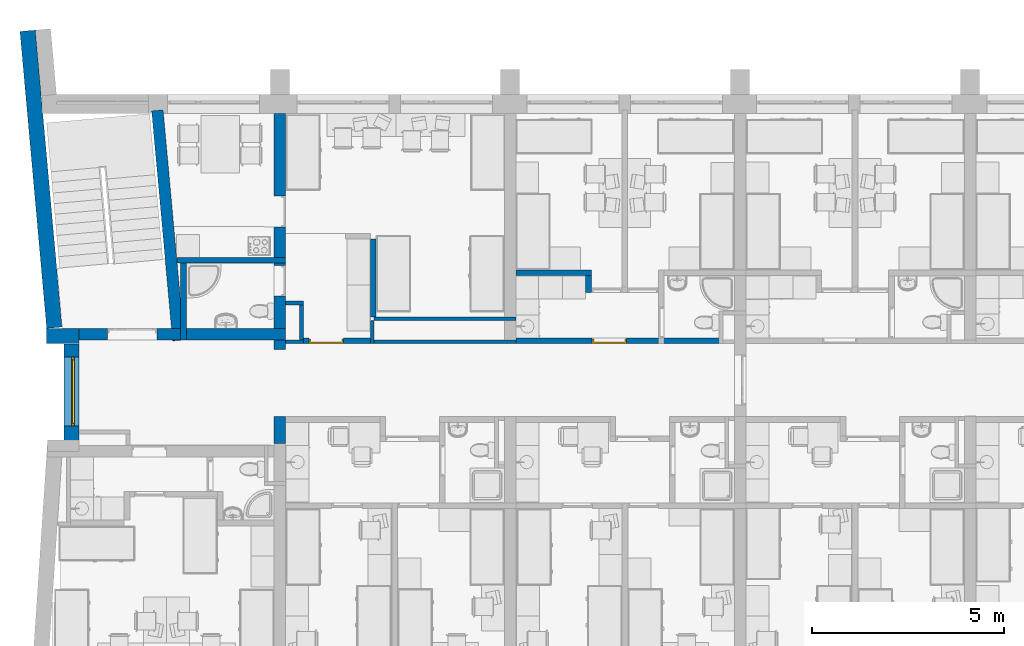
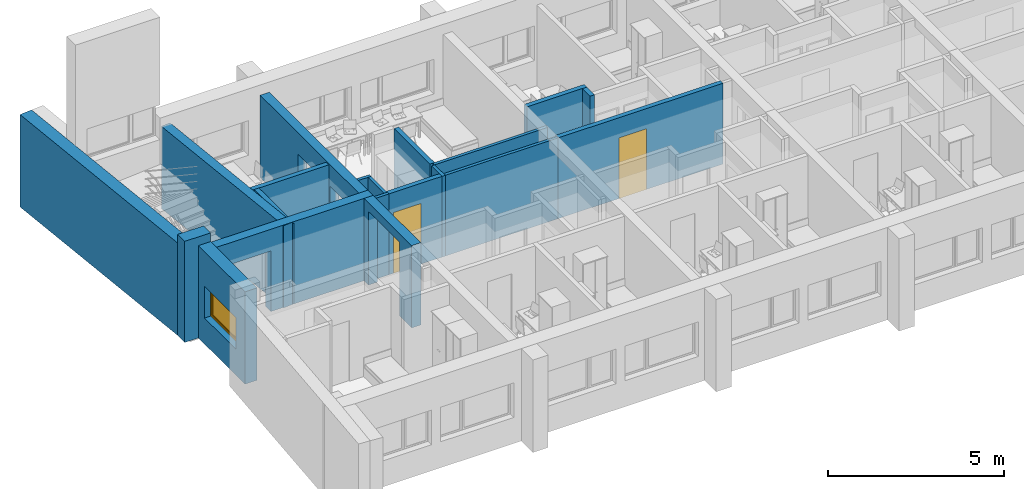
# One storey, part 4 of 165: 19 walls, 2 doors, 1 window, 7 openings.
"""IFC2X3 building model written with IfcOpenShell, lengths in millimetres."""

from ifc_helpers import new_model, entity, si_unit, converted_unit, money_unit, direction, frame, origin_with_axes, place, context, subcontext, project, spatial, polyline, outline, extrude, open_shell, faceted_brep, surface_model, source, transform, mapped, material, material_list, layer, layer_set, layer_usage, type_object, element, fill, save


model = new_model("IFC2X3")

# Units and contexts
model_context = context("Model", 3, precision=1e-05, world=origin_with_axes(), true_north=direction((0.0, 1.0)))
body_context = subcontext(model_context, "Body", "Model", "MODEL_VIEW")
ifc_project = project(units=[si_unit("LENGTHUNIT", "METRE", prefix="MILLI"), si_unit("AREAUNIT", "SQUARE_METRE"), si_unit("VOLUMEUNIT", "CUBIC_METRE"), converted_unit("PLANEANGLEUNIT", "DEGREE", entity("IfcPlaneAngleMeasure", 0.0174532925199), si_unit("PLANEANGLEUNIT", "RADIAN"), dimensions=[0, 0, 0, 0, 0, 0, 0]), si_unit("SOLIDANGLEUNIT", "STERADIAN"), money_unit("USD"), converted_unit("TIMEUNIT", "Year", entity("IfcTimeMeasure", 31556926.0), si_unit("TIMEUNIT", "SECOND"), dimensions=[0, 0, 0, 0, 0, 0, 0]), si_unit("MASSUNIT", "GRAM"), si_unit("THERMODYNAMICTEMPERATUREUNIT", "DEGREE_CELSIUS"), si_unit("LUMINOUSINTENSITYUNIT", "LUMEN")], contexts=[model_context])

# Site, building, storey
site_placement = place(None, origin_with_axes())
site = spatial("IfcSite", under=ifc_project, at=site_placement, Name="Site", CompositionType="ELEMENT")
building_placement = place(site_placement, origin_with_axes())
building = spatial("IfcBuilding", under=site, at=building_placement, Name="Building", CompositionType="ELEMENT")
storey_placement = place(building_placement, frame((0.0, 0.0, 6300.0), z_axis=(0.0, 0.0, 1.0), x_axis=(1.0, 0.0, 0.0)))
storey = spatial("IfcBuildingStorey", under=building, at=storey_placement, Name="4KORRUS", CompositionType="ELEMENT", Elevation=6300.0)

# Walls
ifc_material_1 = material(Name="Olemasolevad seinad tellis, uus viimistlus")
ifc_layer_1 = layer(ifc_material_1, 400.0, ventilated="UNKNOWN")
ifc_layer_set_1 = layer_set([ifc_layer_1], Name="Olemasolevad seinad tellis, uus viimistlus 400")
ifc_layer_usage_1 = layer_usage(ifc_layer_set_1, "AXIS2", "POSITIVE", -400.0)
wall_type_1 = type_object("IfcWallType", Name="Olemasolevad seinad tellis, uus viimistlus 400", PredefinedType="NOTDEFINED")
wall_1_placement = place(storey_placement, frame((-54223.8138142, -10739.6041088, 0.0), z_axis=(0.0, 0.0, 1.0), x_axis=(1.0, 0.0, 0.0)))
element("IfcWallStandardCase", 1, at=wall_1_placement, inside=storey, type_object=wall_type_1, material=ifc_layer_usage_1, Name="VS1", ObjectType="VS1", context=body_context, shape_type="SweptSolid", body=[
    extrude(outline(polyline([(0.0, -400.0), (845.875657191, -400.0), (845.875657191, 0.0), (0.0, 0.0), (0.0, -400.0)])), origin_with_axes(), (0.0, 0.0, 1.0), 3500.0),
])
ifc_layer_usage_2 = layer_usage(ifc_layer_set_1, "AXIS2", "POSITIVE", -400.0)
wall_2_placement = place(storey_placement, frame((-54223.8138142, -10739.6041088, 0.0), z_axis=(0.0, 0.0, 1.0), x_axis=(-0.0895981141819, 0.995978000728, 0.0)))
element("IfcWallStandardCase", 2, at=wall_2_placement, inside=storey, type_object=wall_type_1, material=ifc_layer_usage_2, Name="VS1", ObjectType="VS1", context=body_context, shape_type="SweptSolid", body=[
    extrude(outline(polyline([(0.0, -400.0), (7774.52554637, -400.0), (7774.52554637, 0.0), (0.0, 0.0), (0.0, -400.0)])), origin_with_axes(), (0.0, 0.0, 1.0), 3200.0),
])

# Wall, opening, window
ifc_layer_usage_3 = layer_usage(ifc_layer_set_1, "AXIS2", "POSITIVE", -400.0)
wall_3_placement = place(storey_placement, frame((-53377.938157, -11140.7868098, 0.0), z_axis=(0.0, 0.0, 1.0), x_axis=(0.0, -1.0, 0.0)))
wall_3 = element("IfcWallStandardCase", 3, at=wall_3_placement, inside=storey, type_object=wall_type_1, material=ifc_layer_usage_3, Name="VS1", ObjectType="VS1", context=body_context, shape_type="SweptSolid", body=[
    extrude(outline(polyline([(0.0, -400.0), (2646.55075753, -400.0), (2646.55075753, 0.0), (0.0, 0.0), (0.0, -400.0)])), origin_with_axes(), (0.0, 0.0, 1.0), 3200.0),
])
opening_1_placement = place(wall_3_placement, frame((1248.45308959, 0.0, 900.0), z_axis=(0.0, 0.0, 1.0), x_axis=(1.0, 0.0, 0.0)))
opening_1 = element("IfcOpeningElement", 4, at=opening_1_placement, cuts=wall_3, Name="A5", context=body_context, shape_type="SweptSolid", body=[
    extrude(outline(polyline([(-900.0, 1100.0), (-900.0, 0.0), (900.0, 0.0), (900.0, 1100.0), (-900.0, 1100.0)])), frame((0.0, -200.0, 0.0), z_axis=(0.0, -1.0, 0.0), x_axis=(1.0, 0.0, 0.0)), (0.0, 0.0, 1.0), 600.0),
    extrude(outline(polyline([(-900.0, 0.0), (-900.0, -1100.0), (900.0, -1100.0), (900.0, 0.0), (-900.0, 0.0)])), frame((0.0, -200.0, 0.0), z_axis=(0.0, 1.0, 0.0), x_axis=(1.0, 0.0, 0.0)), (0.0, 0.0, 1.0), 600.0),
])
ifc_material_2 = material(Name="Background")
ifc_material_list = material_list([ifc_material_2])
window_style = type_object("IfcWindowStyle", Name="Window 19", ConstructionType="NOTDEFINED", OperationType="SINGLE_PANEL", ParameterTakesPrecedence=False, Sizeable=False)
shared_shape_1 = source(origin_with_axes(), body_context, "Body", "SurfaceModel", [
    faceted_brep([(-875.0, -150.0, 1050.0), (-900.0, -150.0, 1050.0), (-900.0, -200.0, 1050.0), (-850.0, -200.0, 1050.0), (-850.0, -175.0, 1050.0), (-875.0, -175.0, 1050.0), (-875.0, -150.0, 50.0), (-900.0, -150.0, 50.0), (-900.0, -200.0, 50.0), (-850.0, -200.0, 50.0), (-850.0, -175.0, 50.0), (-875.0, -175.0, 50.0)], [[[0, 1, 2, 3, 4, 5]], [[6, 7, 1, 0]], [[1, 7, 8, 2]], [[2, 8, 9, 3]], [[4, 3, 9, 10]], [[10, 11, 5, 4]], [[5, 11, 6, 0]], [[11, 10, 9, 8, 7, 6]]]),
    faceted_brep([(850.0, -175.0, 1050.0), (850.0, -200.0, 1050.0), (900.0, -200.0, 1050.0), (900.0, -150.0, 1050.0), (875.0, -150.0, 1050.0), (875.0, -175.0, 1050.0), (850.0, -175.0, 50.0), (850.0, -200.0, 50.0), (900.0, -200.0, 50.0), (900.0, -150.0, 50.0), (875.0, -150.0, 50.0), (875.0, -175.0, 50.0)], [[[0, 1, 2, 3, 4, 5]], [[6, 7, 1, 0]], [[8, 2, 1, 7]], [[9, 3, 2, 8]], [[4, 3, 9, 10]], [[10, 11, 5, 4]], [[5, 11, 6, 0]], [[11, 10, 9, 8, 7, 6]]]),
    faceted_brep([(850.0, -175.0, 50.0), (850.0, -200.0, 50.0), (900.0, -200.0, 50.0), (900.0, -150.0, 50.0), (875.0, -150.0, 50.0), (875.0, -175.0, 50.0), (-850.0, -175.0, 50.0), (-850.0, -200.0, 50.0), (-900.0, -200.0, 50.0), (-900.0, -200.0, 0.0), (900.0, -200.0, 0.0), (900.0, -150.0, 0.0), (-875.0, -150.0, 25.0), (875.0, -150.0, 25.0), (-900.0, -150.0, 0.0), (-900.0, -150.0, 50.0), (-875.0, -150.0, 50.0), (875.0, -175.0, 25.0), (-875.0, -175.0, 25.0), (-875.0, -175.0, 50.0)], [[[0, 1, 2, 3, 4, 5]], [[6, 7, 1, 0]], [[8, 9, 10, 2, 1, 7]], [[11, 3, 2, 10]], [[12, 13, 4, 3, 11, 14, 15, 16]], [[13, 17, 5, 4]], [[5, 17, 18, 19, 6, 0]], [[19, 16, 15, 8, 7, 6]], [[15, 14, 9, 8]], [[14, 11, 10, 9]], [[12, 18, 17, 13]], [[19, 18, 12, 16]]]),
    faceted_brep([(-875.0, -150.0, 1050.0), (-900.0, -150.0, 1050.0), (-900.0, -150.0, 1100.0), (900.0, -150.0, 1100.0), (900.0, -150.0, 1050.0), (875.0, -150.0, 1050.0), (875.0, -150.0, 1075.0), (-875.0, -150.0, 1075.0), (-875.0, -175.0, 1050.0), (-850.0, -175.0, 1050.0), (-850.0, -200.0, 1050.0), (-900.0, -200.0, 1050.0), (-900.0, -200.0, 1100.0), (900.0, -200.0, 1100.0), (900.0, -200.0, 1050.0), (875.0, -175.0, 1050.0), (850.0, -200.0, 1050.0), (850.0, -175.0, 1050.0), (875.0, -175.0, 1075.0), (-875.0, -175.0, 1075.0)], [[[0, 1, 2, 3, 4, 5, 6, 7]], [[8, 9, 10, 11, 1, 0]], [[2, 1, 11, 12]], [[3, 2, 12, 13]], [[4, 3, 13, 14]], [[15, 5, 4, 14, 16, 17]], [[5, 15, 18, 6]], [[6, 18, 19, 7]], [[7, 19, 8, 0]], [[17, 9, 8, 19, 18, 15]], [[17, 16, 10, 9]], [[14, 13, 12, 11, 10, 16]]]),
    faceted_brep([(-825.0, -175.0, 1025.0), (-825.0, -125.0, 1025.0), (-875.0, -125.0, 1025.0), (-875.0, -175.0, 1025.0), (-825.0, -175.0, 75.0), (-825.0, -125.0, 75.0), (-875.0, -125.0, 75.0), (-875.0, -175.0, 75.0)], [[[0, 1, 2, 3]], [[4, 5, 1, 0]], [[1, 5, 6, 2]], [[3, 2, 6, 7]], [[0, 3, 7, 4]], [[7, 6, 5, 4]]]),
    faceted_brep([(825.0, -175.0, 75.0), (825.0, -125.0, 75.0), (875.0, -125.0, 75.0), (875.0, -175.0, 75.0), (825.0, -175.0, 1025.0), (825.0, -125.0, 1025.0), (875.0, -125.0, 1025.0), (875.0, -175.0, 1025.0)], [[[0, 1, 2, 3]], [[4, 5, 1, 0]], [[1, 5, 6, 2]], [[3, 2, 6, 7]], [[0, 3, 7, 4]], [[7, 6, 5, 4]]]),
    faceted_brep([(875.0, -175.0, 25.0), (875.0, -125.0, 25.0), (875.0, -125.0, 75.0), (875.0, -175.0, 75.0), (-875.0, -175.0, 25.0), (-875.0, -125.0, 25.0), (-875.0, -125.0, 75.0), (-825.0, -125.0, 75.0), (825.0, -125.0, 75.0), (825.0, -175.0, 75.0), (-825.0, -175.0, 75.0), (-875.0, -175.0, 75.0)], [[[0, 1, 2, 3]], [[4, 5, 1, 0]], [[1, 5, 6, 7, 8, 2]], [[3, 2, 8, 9]], [[0, 3, 9, 10, 11, 4]], [[11, 6, 5, 4]], [[10, 7, 6, 11]], [[9, 8, 7, 10]]]),
    faceted_brep([(-875.0, -175.0, 1075.0), (-875.0, -125.0, 1075.0), (-875.0, -125.0, 1025.0), (-875.0, -175.0, 1025.0), (875.0, -175.0, 1075.0), (875.0, -125.0, 1075.0), (875.0, -125.0, 1025.0), (825.0, -125.0, 1025.0), (-825.0, -125.0, 1025.0), (-825.0, -175.0, 1025.0), (825.0, -175.0, 1025.0), (875.0, -175.0, 1025.0)], [[[0, 1, 2, 3]], [[4, 5, 1, 0]], [[1, 5, 6, 7, 8, 2]], [[3, 2, 8, 9]], [[0, 3, 9, 10, 11, 4]], [[11, 6, 5, 4]], [[10, 7, 6, 11]], [[9, 8, 7, 10]]]),
    surface_model("IfcShellBasedSurfaceModel", [(-825.0, -160.0, 75.0), (825.0, -160.0, 75.0), (825.0, -160.0, 1025.0), (-825.0, -160.0, 1025.0)], [open_shell([[[0, 1, 2, 3]]])]),
    surface_model("IfcShellBasedSurfaceModel", [(-825.0, -140.0, 75.0), (-825.0, -140.0, 1025.0), (825.0, -140.0, 1025.0), (825.0, -140.0, 75.0)], [open_shell([[[0, 1, 2, 3]]])]),
])
window_placement = place(opening_1_placement, frame((-900.0, 0.0, 0.0), z_axis=(0.0, 0.0, 1.0), x_axis=(1.0, 0.0, 0.0)))
window = element("IfcWindow", 5, at=window_placement, inside=storey, type_object=window_style, material=ifc_material_list, Name="A5", ObjectType="A5", OverallHeight=1100.0, OverallWidth=1800.0, context=body_context, shape_type="MappedRepresentation", body=[
    mapped(shared_shape_1, transform((900.0, 0.0, 0.0))),
])
fill(opening_1, window)

# Wall, opening, door
ifc_material_3 = material(Name="UmbKipsplaat")
ifc_layer_2 = layer(ifc_material_3, 13.0, ventilated="UNKNOWN")
ifc_layer_3 = layer(ifc_material_3, 13.0, ventilated="UNKNOWN")
ifc_material_4 = material(Name="SOOJUSTUS MINERAALVILL")
ifc_layer_4 = layer(ifc_material_4, 98.0, ventilated="UNKNOWN")
ifc_layer_5 = layer(ifc_material_3, 13.0, ventilated="UNKNOWN")
ifc_layer_6 = layer(ifc_material_3, 13.0, ventilated="UNKNOWN")
ifc_layer_set_2 = layer_set([ifc_layer_2, ifc_layer_3, ifc_layer_4, ifc_layer_5, ifc_layer_6], Name="kipssein150")
ifc_layer_usage_4 = layer_usage(ifc_layer_set_2, "AXIS2", "POSITIVE", 0.0)
wall_type_2 = type_object("IfcWallType", Name="kipssein150 150", PredefinedType="NOTDEFINED")
wall_4_placement = place(storey_placement, frame((-47531.576757, -11136.6041088, 0.0), z_axis=(0.0, 0.0, 1.0), x_axis=(1.0, 0.0, 0.0)))
wall_4 = element("IfcWallStandardCase", 6, at=wall_4_placement, inside=storey, type_object=wall_type_2, material=ifc_layer_usage_4, Name="SS1", ObjectType="SS1", context=body_context, shape_type="SweptSolid", body=[
    extrude(outline(polyline([(0.0, 0.0), (1747.44398218, 0.0), (1747.44398218, 150.0), (0.0, 150.0), (0.0, 0.0)])), origin_with_axes(), (0.0, 0.0, 1.0), 2800.0),
])
opening_2_placement = place(wall_4_placement, frame((597.0, 0.0, 0.0), z_axis=(0.0, 0.0, 1.0), x_axis=(1.0, 0.0, 0.0)))
opening_2 = element("IfcOpeningElement", 7, at=opening_2_placement, cuts=wall_4, Name="SU2-6", context=body_context, shape_type="SweptSolid", body=[
    extrude(outline(polyline([(-450.0, -2100.0), (450.0, -2100.0), (450.0, 0.0), (-450.0, 0.0), (-450.0, -2100.0)])), frame((0.0, 150.0, 0.0), z_axis=(0.0, 1.0, 0.0), x_axis=(1.0, 0.0, 0.0)), (0.0, 0.0, -1.0), 450.0),
])
door_style = type_object("IfcDoorStyle", Name="Door 19", ConstructionType="NOTDEFINED", OperationType="SINGLE_SWING_LEFT", ParameterTakesPrecedence=False, Sizeable=False)
shared_shape_2 = source(origin_with_axes(), body_context, "Body", "Brep", [
    faceted_brep([(410.0, -40.0, 0.0), (410.0, -115.0, 0.0), (410.0, -115.0, 2060.0), (410.0, -40.0, 2060.0), (422.0, -40.0, 0.0), (422.0, 0.0, 0.0), (450.0, 0.0, 0.0), (450.0, -115.0, 0.0), (450.0, -115.0, 2060.0), (422.0, -40.0, 2060.0), (450.0, 0.0, 2060.0), (422.0, 0.0, 2060.0)], [[[0, 1, 2, 3]], [[4, 5, 6, 7, 1, 0]], [[2, 1, 7, 8]], [[9, 3, 2, 8, 10, 11]], [[9, 4, 0, 3]], [[11, 5, 4, 9]], [[11, 10, 6, 5]], [[7, 6, 10, 8]]]),
    faceted_brep([(-422.0, -40.0, 2060.0), (-422.0, 0.0, 2060.0), (-450.0, 0.0, 2060.0), (-450.0, -115.0, 2060.0), (-410.0, -115.0, 2060.0), (-410.0, -40.0, 2060.0), (-422.0, -40.0, 0.0), (-422.0, 0.0, 0.0), (-450.0, 0.0, 0.0), (-450.0, -115.0, 0.0), (-410.0, -115.0, 0.0), (-410.0, -40.0, 0.0)], [[[0, 1, 2, 3, 4, 5]], [[0, 6, 7, 1]], [[7, 8, 2, 1]], [[3, 2, 8, 9]], [[4, 3, 9, 10]], [[5, 4, 10, 11]], [[5, 11, 6, 0]], [[6, 11, 10, 9, 8, 7]]]),
    faceted_brep([(422.0, 0.0, 2072.0), (-422.0, 0.0, 2072.0), (-422.0, 0.0, 2060.0), (-450.0, 0.0, 2060.0), (-450.0, 0.0, 2100.0), (450.0, 0.0, 2100.0), (450.0, 0.0, 2060.0), (422.0, 0.0, 2060.0), (422.0, -40.0, 2072.0), (-422.0, -40.0, 2072.0), (-422.0, -40.0, 2060.0), (-410.0, -40.0, 2060.0), (-410.0, -115.0, 2060.0), (-450.0, -115.0, 2060.0), (-450.0, -115.0, 2100.0), (450.0, -115.0, 2100.0), (450.0, -115.0, 2060.0), (422.0, -40.0, 2060.0), (410.0, -115.0, 2060.0), (410.0, -40.0, 2060.0)], [[[0, 1, 2, 3, 4, 5, 6, 7]], [[0, 8, 9, 1]], [[1, 9, 10, 2]], [[10, 11, 12, 13, 3, 2]], [[14, 4, 3, 13]], [[15, 5, 4, 14]], [[16, 6, 5, 15]], [[17, 7, 6, 16, 18, 19]], [[7, 17, 8, 0]], [[10, 9, 8, 17, 19, 11]], [[19, 18, 12, 11]], [[13, 12, 18, 16, 15, 14]]]),
    faceted_brep([(-422.0, 0.0, 0.0), (422.0, 0.0, 0.0), (422.0, -40.0, 0.0), (-422.0, -40.0, 0.0), (-422.0, 0.0, 2072.0), (422.0, 0.0, 2072.0), (422.0, -40.0, 2072.0), (-422.0, -40.0, 2072.0)], [[[0, 1, 2, 3]], [[0, 4, 5, 1]], [[1, 5, 6, 2]], [[3, 2, 6, 7]], [[4, 0, 3, 7]], [[5, 4, 7, 6]]]),
])
door_1_placement = place(opening_2_placement, frame((450.0, 0.0, 0.0), z_axis=(0.0, 0.0, 1.0), x_axis=(-1.0, 0.0, 0.0)))
door_1 = element("IfcDoor", 8, at=door_1_placement, inside=storey, type_object=door_style, material=ifc_material_list, Name="SU2-6", ObjectType="Korteri välisuks", OverallHeight=2100.0, OverallWidth=900.0, context=body_context, shape_type="MappedRepresentation", body=[
    mapped(shared_shape_2, transform((450.0, 0.0, 0.0))),
])
fill(opening_2, door_1)

ifc_layer_usage_5 = layer_usage(ifc_layer_set_2, "AXIS2", "POSITIVE", 0.0)
wall_5_placement = place(storey_placement, frame((-41983.668292, -11136.6041088, 0.0), z_axis=(0.0, 0.0, 1.0), x_axis=(1.0, 0.0, 0.0)))
wall_5 = element("IfcWallStandardCase", 9, at=wall_5_placement, inside=storey, type_object=wall_type_2, material=ifc_layer_usage_5, Name="SS1", ObjectType="SS1", context=body_context, shape_type="SweptSolid", body=[
    extrude(outline(polyline([(0.0, 0.0), (5393.65998403, 0.0), (5393.65998403, 150.0), (0.0, 150.0), (0.0, 0.0)])), origin_with_axes(), (0.0, 0.0, 1.0), 2800.0),
])
opening_3_placement = place(wall_5_placement, frame((2436.63637372, 0.0, 0.0), z_axis=(0.0, 0.0, 1.0), x_axis=(1.0, 0.0, 0.0)))
opening_3 = element("IfcOpeningElement", 10, at=opening_3_placement, cuts=wall_5, Name="SU2-6", context=body_context, shape_type="SweptSolid", body=[
    extrude(outline(polyline([(-450.0, -2100.0), (450.0, -2100.0), (450.0, 0.0), (-450.0, 0.0), (-450.0, -2100.0)])), frame((0.0, 150.0, 0.0), z_axis=(0.0, 1.0, 0.0), x_axis=(1.0, 0.0, 0.0)), (0.0, 0.0, -1.0), 450.0),
])
door_2_placement = place(opening_3_placement, frame((450.0, 0.0, 0.0), z_axis=(0.0, 0.0, 1.0), x_axis=(-1.0, 0.0, 0.0)))
door_2 = element("IfcDoor", 11, at=door_2_placement, inside=storey, type_object=door_style, material=ifc_material_list, Name="SU2-6", ObjectType="Korteri välisuks", OverallHeight=2100.0, OverallWidth=900.0, context=body_context, shape_type="MappedRepresentation", body=[
    mapped(shared_shape_2, transform((450.0, 0.0, 0.0))),
])
fill(opening_3, door_2)

# Walls
ifc_layer_usage_6 = layer_usage(ifc_layer_set_2, "AXIS2", "POSITIVE", -150.0)
wall_6_placement = place(storey_placement, frame((-40022.0319183, -9366.37850445, 0.0), z_axis=(0.0, 0.0, 1.0), x_axis=(0.0, -1.0, 0.0)))
element("IfcWallStandardCase", 12, at=wall_6_placement, inside=storey, type_object=wall_type_2, material=ifc_layer_usage_6, Name="SS1", ObjectType="SS1", context=body_context, shape_type="SweptSolid", body=[
    extrude(outline(polyline([(0.0, -150.0), (440.515634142, -150.0), (440.515634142, 0.0), (0.0, 0.0), (0.0, -150.0)])), origin_with_axes(), (0.0, 0.0, 1.0), 2800.0),
])
ifc_layer_usage_7 = layer_usage(ifc_layer_set_2, "AXIS2", "POSITIVE", 0.0)
wall_7_placement = place(storey_placement, frame((-45784.1327748, -8409.87086674, 0.0), z_axis=(0.0, 0.0, 1.0), x_axis=(0.0, -1.0, 0.0)))
element("IfcWallStandardCase", 13, at=wall_7_placement, inside=storey, type_object=wall_type_2, material=ifc_layer_usage_7, Name="SS1", ObjectType="SS1", context=body_context, shape_type="SweptSolid", body=[
    extrude(outline(polyline([(0.0, 0.0), (2030.09981647, 0.0), (2030.09981647, 150.0), (0.0, 150.0), (0.0, 0.0)])), origin_with_axes(), (0.0, 0.0, 1.0), 2800.0),
])
ifc_layer_usage_8 = layer_usage(ifc_layer_set_2, "AXIS2", "POSITIVE", 0.0)
wall_8_placement = place(storey_placement, frame((-50822.8272619, -9039.27319796, 0.0), z_axis=(0.0, 0.0, 1.0), x_axis=(1.0, 0.0, 0.0)))
element("IfcWallStandardCase", 14, at=wall_8_placement, inside=storey, type_object=wall_type_2, material=ifc_layer_usage_8, Name="SS1", ObjectType="SS1", context=body_context, shape_type="SweptSolid", body=[
    extrude(outline(polyline([(0.0, 0.0), (2832.53055858, 0.0), (2832.53055858, 150.0), (0.0, 150.0), (0.0, 0.0)])), origin_with_axes(), (0.0, 0.0, 1.0), 2800.0),
])
ifc_layer_usage_9 = layer_usage(ifc_layer_set_2, "AXIS2", "POSITIVE", -150.0)
wall_9_placement = place(storey_placement, frame((-40022.0319183, -9366.37850445, 0.0), z_axis=(0.0, 0.0, 1.0), x_axis=(-1.0, 0.0, 0.0)))
element("IfcWallStandardCase", 15, at=wall_9_placement, inside=storey, type_object=wall_type_2, material=ifc_layer_usage_9, Name="SS1", ObjectType="SS1", context=body_context, shape_type="SweptSolid", body=[
    extrude(outline(polyline([(0.0, -150.0), (1968.26478505, -150.0), (1968.26478505, 0.0), (0.0, 0.0), (0.0, -150.0)])), origin_with_axes(), (0.0, 0.0, 1.0), 2800.0),
])
ifc_layer_usage_10 = layer_usage(ifc_layer_set_2, "AXIS2", "POSITIVE", -150.0)
wall_10_placement = place(storey_placement, frame((-50578.5849733, -9039.27319796, 0.0), z_axis=(0.0, 0.0, 1.0), x_axis=(0.0, -1.0, 0.0)))
element("IfcWallStandardCase", 16, at=wall_10_placement, inside=storey, type_object=wall_type_2, material=ifc_layer_usage_10, Name="SS1", ObjectType="SS1", context=body_context, shape_type="SweptSolid", body=[
    extrude(outline(polyline([(0.0, -150.0), (2000.33091084, -150.0), (2000.33091084, 0.0), (0.0, 0.0), (0.0, -150.0)])), origin_with_axes(), (0.0, 0.0, 1.0), 2800.0),
])

# Wall, opening
ifc_material_5 = material(Name="Olemasolevad seinad tellis, uus viimistlus")
ifc_layer_7 = layer(ifc_material_5, 300.0, ventilated="UNKNOWN")
ifc_layer_set_3 = layer_set([ifc_layer_7], Name="Olemasolevad seinad tellis, uus viimistlus  300")
ifc_layer_usage_11 = layer_usage(ifc_layer_set_3, "AXIS2", "POSITIVE", 0.0)
wall_type_3 = type_object("IfcWallType", Name="Olemasolevad seinad tellis, uus viimistlus  300", PredefinedType="NOTDEFINED")
wall_11_placement = place(storey_placement, frame((-53377.938157, -11039.6041088, 0.0), z_axis=(0.0, 0.0, 1.0), x_axis=(1.0, 0.0, 0.0)))
wall_11 = element("IfcWallStandardCase", 17, at=wall_11_placement, inside=storey, type_object=wall_type_3, material=ifc_layer_usage_11, Name="KS1", ObjectType="KS1", context=body_context, shape_type="SweptSolid", body=[
    extrude(outline(polyline([(0.0, 0.0), (5387.64145368, 0.0), (5387.64145368, 300.0), (0.0, 300.0), (0.0, 0.0)])), origin_with_axes(), (0.0, 0.0, 1.0), 2850.0),
])
opening_4_placement = place(wall_11_placement, frame((1386.20809059, 0.0, 0.0), z_axis=(0.0, 0.0, 1.0), x_axis=(1.0, 0.0, 0.0)))
element("IfcOpeningElement", 18, at=opening_4_placement, cuts=wall_11, Name="SU4-2", context=body_context, shape_type="SweptSolid", body=[
    extrude(outline(polyline([(-650.0, -2100.0), (650.0, -2100.0), (650.0, 0.0), (-650.0, 0.0), (-650.0, -2100.0)])), frame((0.0, -300.0, 0.0), z_axis=(0.0, 1.0, 0.0), x_axis=(1.0, 0.0, 0.0)), (0.0, 0.0, 1.0), 900.0),
])

# Wall, openings
ifc_layer_usage_12 = layer_usage(ifc_layer_set_3, "AXIS2", "POSITIVE", 0.0)
wall_12_placement = place(storey_placement, frame((-47990.2967033, -13739.2398994, 0.0), z_axis=(0.0, 0.0, 1.0), x_axis=(0.0, 1.0, 0.0)))
wall_12 = element("IfcWallStandardCase", 19, at=wall_12_placement, inside=storey, type_object=wall_type_3, material=ifc_layer_usage_12, Name="KS1", ObjectType="KS1", context=body_context, shape_type="SweptSolid", body=[
    extrude(outline(polyline([(0.0, 0.0), (8599.63579061, 0.0), (8599.63579061, 300.0), (0.0, 300.0), (0.0, 0.0)])), origin_with_axes(), (0.0, 0.0, 1.0), 2850.0),
])
opening_5_placement = place(wall_12_placement, frame((1574.63579061, 0.0, 0.0), z_axis=(0.0, 0.0, 1.0), x_axis=(1.0, 0.0, 0.0)))
element("IfcOpeningElement", 20, at=opening_5_placement, cuts=wall_12, Name="DOO - 001", context=body_context, shape_type="SweptSolid", body=[
    extrude(outline(polyline([(-875.0, 0.0), (-875.0, -2550.0), (875.0, -2550.0), (875.0, 0.0), (-875.0, 0.0)])), frame((0.0, 300.0, 0.0), z_axis=(0.0, 1.0, 0.0), x_axis=(1.0, 0.0, 0.0)), (0.0, 0.0, 1.0), 300.0),
    extrude(outline(polyline([(-875.0, 2550.0), (-875.0, 0.0), (875.0, 0.0), (875.0, 2550.0), (-875.0, 2550.0)])), frame((0.0, 300.0, 0.0), z_axis=(0.0, -1.0, 0.0), x_axis=(1.0, 0.0, 0.0)), (0.0, 0.0, 1.0), 300.0),
])
opening_6_placement = place(wall_12_placement, frame((6049.36903267, 0.0, 0.0), z_axis=(0.0, 0.0, 1.0), x_axis=(1.0, 0.0, 0.0)))
element("IfcOpeningElement", 21, at=opening_6_placement, cuts=wall_12, Name="SU3-4", context=body_context, shape_type="SweptSolid", body=[
    extrude(outline(polyline([(-400.0, -2100.0), (400.0, -2100.0), (400.0, 0.0), (-400.0, 0.0), (-400.0, -2100.0)])), frame((0.0, 300.0, 0.0), z_axis=(0.0, -1.0, 0.0), x_axis=(-1.0, 0.0, 0.0)), (0.0, 0.0, 1.0), 900.0),
])
opening_7_placement = place(wall_12_placement, frame((4239.50270273, 0.0, 0.0), z_axis=(0.0, 0.0, 1.0), x_axis=(1.0, 0.0, 0.0)))
element("IfcOpeningElement", 22, at=opening_7_placement, cuts=wall_12, Name="SU3-3", context=body_context, shape_type="SweptSolid", body=[
    extrude(outline(polyline([(-400.0, -2100.0), (400.0, -2100.0), (400.0, 0.0), (-400.0, 0.0), (-400.0, -2100.0)])), frame((0.0, 300.0, 0.0), z_axis=(0.0, 1.0, 0.0), x_axis=(1.0, 0.0, 0.0)), (0.0, 0.0, -1.0), 900.0),
])

# Walls
ifc_layer_usage_13 = layer_usage(ifc_layer_set_3, "AXIS2", "POSITIVE", -300.0)
wall_13_placement = place(storey_placement, frame((-51188.5055148, -5039.6041088, 0.0), z_axis=(0.0, 0.0, 1.0), x_axis=(0.0910473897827, -0.995846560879, 0.0)))
element("IfcWallStandardCase", 23, at=wall_13_placement, inside=storey, type_object=wall_type_3, material=ifc_layer_usage_13, Name="KS1", ObjectType="KS1", context=body_context, shape_type="SweptSolid", body=[
    extrude(outline(polyline([(0.0, -300.0), (6025.02457277, -300.0), (6025.02457277, 0.0), (0.0, 0.0), (0.0, -300.0)])), origin_with_axes(), (0.0, 0.0, 1.0), 2850.0),
])
ifc_material_6 = material(Name="krohv")
ifc_layer_8 = layer(ifc_material_6, 2.0, ventilated="UNKNOWN")
ifc_layer_9 = layer(ifc_material_6, 10.0, ventilated="UNKNOWN")
ifc_material_7 = material(Name="Kergplokk")
ifc_layer_10 = layer(ifc_material_7, 76.0, ventilated="UNKNOWN")
ifc_layer_11 = layer(ifc_material_6, 10.0, ventilated="UNKNOWN")
ifc_layer_12 = layer(ifc_material_6, 2.0, ventilated="UNKNOWN")
ifc_layer_set_4 = layer_set([ifc_layer_8, ifc_layer_9, ifc_layer_10, ifc_layer_11, ifc_layer_12], Name="Kergplokk Bauroc 100")
ifc_layer_usage_14 = layer_usage(ifc_layer_set_4, "AXIS2", "POSITIVE", 0.0)
wall_type_4 = type_object("IfcWallType", Name="Kergplokk Bauroc 100 100", PredefinedType="NOTDEFINED")
wall_14_placement = place(storey_placement, frame((-45685.1422211, -11136.6041088, 0.0), z_axis=(0.0, 0.0, 1.0), x_axis=(1.0, 0.0, 0.0)))
element("IfcWallStandardCase", 24, at=wall_14_placement, inside=storey, type_object=wall_type_4, material=ifc_layer_usage_14, Name="SS2", ObjectType="SS2", context=body_context, shape_type="SweptSolid", body=[
    extrude(outline(polyline([(0.0, 0.0), (3694.84551781, 0.0), (3694.84551781, 100.0), (0.0, 100.0), (0.0, 0.0)])), origin_with_axes(), (0.0, 0.0, 1.0), 2800.0),
])
ifc_layer_usage_15 = layer_usage(ifc_layer_set_4, "AXIS2", "POSITIVE", 0.0)
wall_15_placement = place(storey_placement, frame((-47531.576757, -11036.4466637, 0.0), z_axis=(0.0, 0.0, 1.0), x_axis=(-1.0, 0.0, 0.0)))
element("IfcWallStandardCase", 25, at=wall_15_placement, inside=storey, type_object=wall_type_4, material=ifc_layer_usage_15, Name="SS2", ObjectType="SS2", context=body_context, shape_type="SweptSolid", body=[
    extrude(outline(polyline([(0.0, 0.0), (458.719946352, 0.0), (458.719946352, 100.0), (0.0, 100.0), (0.0, 0.0)])), origin_with_axes(), (0.0, 0.0, 1.0), 2800.0),
])
ifc_layer_usage_16 = layer_usage(ifc_layer_set_4, "AXIS2", "POSITIVE", 0.0)
wall_16_placement = place(storey_placement, frame((-45685.1422211, -11136.6041088, 0.0), z_axis=(0.0, 0.0, 1.0), x_axis=(0.0, 1.0, 0.0)))
element("IfcWallStandardCase", 26, at=wall_16_placement, inside=storey, type_object=wall_type_4, material=ifc_layer_usage_16, Name="SS2", ObjectType="SS2", context=body_context, shape_type="SweptSolid", body=[
    extrude(outline(polyline([(0.0, 0.0), (596.633425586, 0.0), (596.633425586, 100.0), (0.0, 100.0), (0.0, 0.0)])), origin_with_axes(), (0.0, 0.0, 1.0), 2800.0),
])
ifc_layer_usage_17 = layer_usage(ifc_layer_set_4, "AXIS2", "POSITIVE", 0.0)
wall_17_placement = place(storey_placement, frame((-45685.1422211, -10539.9706832, 0.0), z_axis=(0.0, 0.0, 1.0), x_axis=(1.0, 0.0, 0.0)))
element("IfcWallStandardCase", 27, at=wall_17_placement, inside=storey, type_object=wall_type_4, material=ifc_layer_usage_17, Name="SS2", ObjectType="SS2", context=body_context, shape_type="SweptSolid", body=[
    extrude(outline(polyline([(0.0, 0.0), (3694.84551781, 0.0), (3694.84551781, 100.0), (0.0, 100.0), (0.0, 0.0)])), origin_with_axes(), (0.0, 0.0, 1.0), 2800.0),
])
ifc_layer_usage_18 = layer_usage(ifc_layer_set_4, "AXIS2", "POSITIVE", 0.0)
wall_18_placement = place(storey_placement, frame((-47531.576757, -10029.2968419, 0.0), z_axis=(0.0, 0.0, 1.0), x_axis=(-1.0, 0.0, 0.0)))
element("IfcWallStandardCase", 28, at=wall_18_placement, inside=storey, type_object=wall_type_4, material=ifc_layer_usage_18, Name="SS2", ObjectType="SS2", context=body_context, shape_type="SweptSolid", body=[
    extrude(outline(polyline([(0.0, 0.0), (458.719946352, 0.0), (458.719946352, 100.0), (0.0, 100.0), (0.0, 0.0)])), origin_with_axes(), (0.0, 0.0, 1.0), 2800.0),
])
ifc_layer_usage_19 = layer_usage(ifc_layer_set_4, "AXIS2", "POSITIVE", 0.0)
wall_19_placement = place(storey_placement, frame((-47531.576757, -11036.4466637, 0.0), z_axis=(0.0, 0.0, 1.0), x_axis=(0.0, 1.0, 0.0)))
element("IfcWallStandardCase", 29, at=wall_19_placement, inside=storey, type_object=wall_type_4, material=ifc_layer_usage_19, Name="SS2", ObjectType="SS2", context=body_context, shape_type="SweptSolid", body=[
    extrude(outline(polyline([(0.0, 0.0), (1007.14982177, 0.0), (1007.14982177, 100.0), (0.0, 100.0), (0.0, 0.0)])), origin_with_axes(), (0.0, 0.0, 1.0), 2800.0),
])

save(model, "model.ifc")
